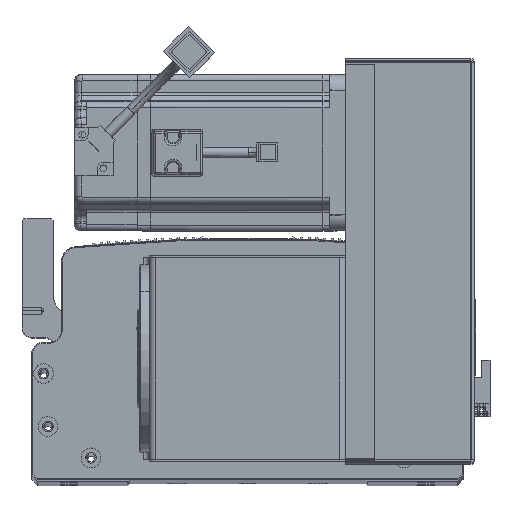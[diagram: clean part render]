
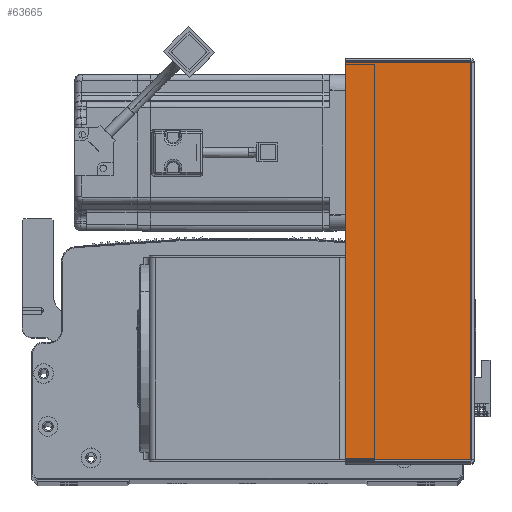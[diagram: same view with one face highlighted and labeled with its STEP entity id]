
A CAD part, top view. The second image highlights one B-rep face of the part: STEP entity #63665.
In plain terms, the highlighted planar face has unit normal (0, 0, 1) as drawn and (0, -1, 0) by its records, which use the part's own axes.
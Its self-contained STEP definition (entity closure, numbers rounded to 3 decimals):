
#607 = DIRECTION ( 'NONE',  ( 1., 0., 0. ) ) ;
#4048 = LINE ( 'NONE', #64384, #52257 ) ;
#4109 = VECTOR ( 'NONE', #26963, 1000. ) ;
#7020 = CARTESIAN_POINT ( 'NONE',  ( 0., -1.5, -203.293 ) ) ;
#8783 = ORIENTED_EDGE ( 'NONE', *, *, #17669, .T. ) ;
#9044 = CARTESIAN_POINT ( 'NONE',  ( 0.737, -1.5, -0.707 ) ) ;
#9945 = EDGE_CURVE ( 'NONE', #67301, #79285, #65875, .T. ) ;
#15837 = DIRECTION ( 'NONE',  ( 0., 0., 1. ) ) ;
#17181 = LINE ( 'NONE', #76182, #69703 ) ;
#17669 = EDGE_CURVE ( 'NONE', #68114, #50450, #38807, .T. ) ;
#19860 = ORIENTED_EDGE ( 'NONE', *, *, #20099, .T. ) ;
#20099 = EDGE_CURVE ( 'NONE', #50450, #79285, #17181, .T. ) ;
#23690 = EDGE_CURVE ( 'NONE', #68114, #67301, #4048, .T. ) ;
#26963 = DIRECTION ( 'NONE',  ( 1., 0., 0. ) ) ;
#30531 = ORIENTED_EDGE ( 'NONE', *, *, #23690, .F. ) ;
#34994 = DIRECTION ( 'NONE',  ( -1., 0., 0. ) ) ;
#38807 = LINE ( 'NONE', #7020, #4109 ) ;
#49345 = CARTESIAN_POINT ( 'NONE',  ( 0., -1.5, 0. ) ) ;
#49700 = CARTESIAN_POINT ( 'NONE',  ( 64.5, -1.5, -203.293 ) ) ;
#50450 = VERTEX_POINT ( 'NONE', #49700 ) ;
#51433 = DIRECTION ( 'NONE',  ( 0., 0., 1. ) ) ;
#52257 = VECTOR ( 'NONE', #51433, 1000. ) ;
#55801 = PLANE ( 'NONE',  #80294 ) ;
#61123 = EDGE_LOOP ( 'NONE', ( #30531, #8783, #19860, #75614 ) ) ;
#63431 = FACE_OUTER_BOUND ( 'NONE', #61123, .T. ) ;
#63665 = ADVANCED_FACE ( 'NONE', ( #63431 ), #55801, .F. ) ;
#64384 = CARTESIAN_POINT ( 'NONE',  ( 0.737, -1.5, 0. ) ) ;
#65217 = CARTESIAN_POINT ( 'NONE',  ( 0.737, -1.5, -203.293 ) ) ;
#65875 = LINE ( 'NONE', #74188, #70059 ) ;
#67046 = CARTESIAN_POINT ( 'NONE',  ( 64.5, -1.5, -0.707 ) ) ;
#67301 = VERTEX_POINT ( 'NONE', #9044 ) ;
#68114 = VERTEX_POINT ( 'NONE', #65217 ) ;
#69703 = VECTOR ( 'NONE', #15837, 1000. ) ;
#70059 = VECTOR ( 'NONE', #607, 1000. ) ;
#74188 = CARTESIAN_POINT ( 'NONE',  ( 0., -1.5, -0.707 ) ) ;
#75117 = DIRECTION ( 'NONE',  ( 0., 1., 0. ) ) ;
#75614 = ORIENTED_EDGE ( 'NONE', *, *, #9945, .F. ) ;
#76182 = CARTESIAN_POINT ( 'NONE',  ( 64.5, -1.5, 0. ) ) ;
#79285 = VERTEX_POINT ( 'NONE', #67046 ) ;
#80294 = AXIS2_PLACEMENT_3D ( 'NONE', #49345, #75117, #34994 ) ;
